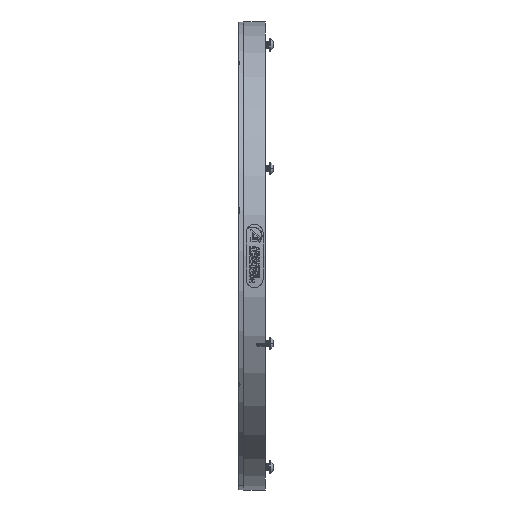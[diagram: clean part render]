
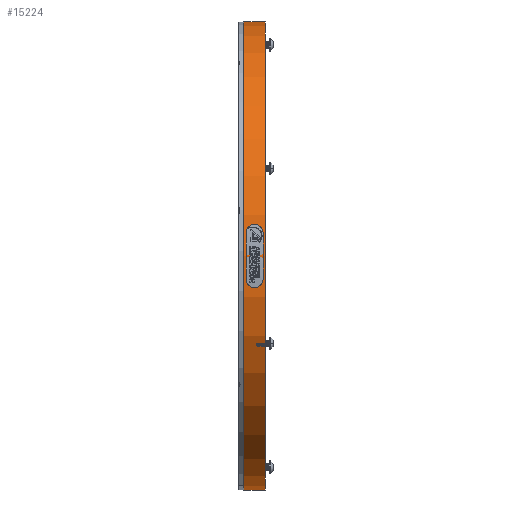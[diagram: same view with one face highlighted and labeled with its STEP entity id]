
A CAD part, left-side view. The second image highlights one B-rep face of the part: STEP entity #15224.
In plain terms, the highlighted cylindrical face has radius 140 mm (diameter 280 mm), a partial arc.
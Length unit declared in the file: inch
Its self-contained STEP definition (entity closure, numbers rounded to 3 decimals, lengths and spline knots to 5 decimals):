
#1542 = DIRECTION ( 'NONE',  ( 0., -1., 0. ) ) ;
#3731 = CIRCLE ( 'NONE', #8907, 5.51181 ) ;
#3856 = CARTESIAN_POINT ( 'NONE',  ( 0., 0., -5.51181 ) ) ;
#4423 = CARTESIAN_POINT ( 'NONE',  ( 0., 0.5, 0. ) ) ;
#6126 = CARTESIAN_POINT ( 'NONE',  ( 0., 0., 5.51181 ) ) ;
#8907 = AXIS2_PLACEMENT_3D ( 'NONE', #4423, #12384, #12855 ) ;
#10498 = CARTESIAN_POINT ( 'NONE',  ( 0., 0.5, -5.51181 ) ) ;
#11068 = ORIENTED_EDGE ( 'NONE', *, *, #32202, .F. ) ;
#11280 = ORIENTED_EDGE ( 'NONE', *, *, #28739, .F. ) ;
#11930 = CYLINDRICAL_SURFACE ( 'NONE', #24819, 5.51181 ) ;
#12384 = DIRECTION ( 'NONE',  ( 0., -1., 0. ) ) ;
#12559 = AXIS2_PLACEMENT_3D ( 'NONE', #28353, #25902, #23443 ) ;
#12855 = DIRECTION ( 'NONE',  ( 0., 0., -1. ) ) ;
#12911 = CARTESIAN_POINT ( 'NONE',  ( 0., 0., -5.51181 ) ) ;
#14552 = EDGE_LOOP ( 'NONE', ( #11068, #28914, #23857, #11280 ) ) ;
#14583 = VERTEX_POINT ( 'NONE', #6126 ) ;
#14750 = CARTESIAN_POINT ( 'NONE',  ( 0., 0., 5.51181 ) ) ;
#15224 = ADVANCED_FACE ( 'NONE', ( #31627 ), #11930, .T. ) ;
#15491 = DIRECTION ( 'NONE',  ( 0., -1., 0. ) ) ;
#15923 = CIRCLE ( 'NONE', #12559, 5.51181 ) ;
#16728 = VECTOR ( 'NONE', #31645, 39.37008 ) ;
#19088 = EDGE_CURVE ( 'NONE', #30383, #32956, #3731, .T. ) ;
#21018 = CARTESIAN_POINT ( 'NONE',  ( 0., 0., 0. ) ) ;
#21599 = LINE ( 'NONE', #14750, #27039 ) ;
#22205 = LINE ( 'NONE', #12911, #16728 ) ;
#23429 = CARTESIAN_POINT ( 'NONE',  ( 0., 0.5, 5.51181 ) ) ;
#23443 = DIRECTION ( 'NONE',  ( 0., 0., -1. ) ) ;
#23857 = ORIENTED_EDGE ( 'NONE', *, *, #28428, .T. ) ;
#24819 = AXIS2_PLACEMENT_3D ( 'NONE', #21018, #15491, #34221 ) ;
#25902 = DIRECTION ( 'NONE',  ( 0., -1., 0. ) ) ;
#27039 = VECTOR ( 'NONE', #1542, 39.37008 ) ;
#28168 = VERTEX_POINT ( 'NONE', #3856 ) ;
#28353 = CARTESIAN_POINT ( 'NONE',  ( 0., 0., 0. ) ) ;
#28428 = EDGE_CURVE ( 'NONE', #32956, #28168, #22205, .T. ) ;
#28739 = EDGE_CURVE ( 'NONE', #14583, #28168, #15923, .T. ) ;
#28914 = ORIENTED_EDGE ( 'NONE', *, *, #19088, .T. ) ;
#30383 = VERTEX_POINT ( 'NONE', #23429 ) ;
#31627 = FACE_OUTER_BOUND ( 'NONE', #14552, .T. ) ;
#31645 = DIRECTION ( 'NONE',  ( 0., -1., 0. ) ) ;
#32202 = EDGE_CURVE ( 'NONE', #30383, #14583, #21599, .T. ) ;
#32956 = VERTEX_POINT ( 'NONE', #10498 ) ;
#34221 = DIRECTION ( 'NONE',  ( 0., 0., -1. ) ) ;
